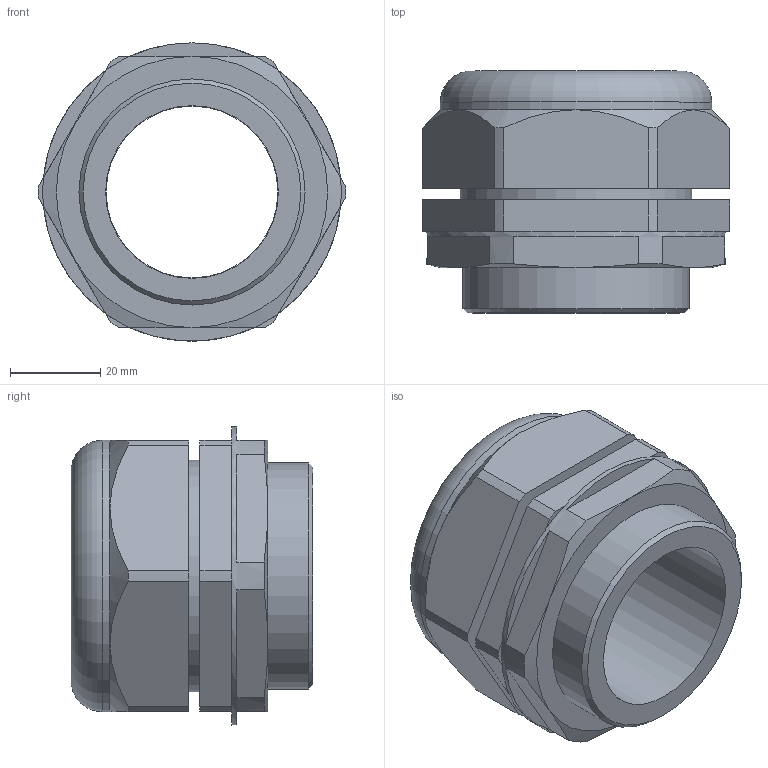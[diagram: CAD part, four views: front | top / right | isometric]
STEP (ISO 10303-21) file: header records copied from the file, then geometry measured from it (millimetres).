
FILE_DESCRIPTION(/* description */ (''),/* implementation_level */ '2;1');
FILE_NAME(/* name */ 'K:\ПРОЕКТЫ\2020\2020-06-09 - Модели GK xx M\OK - GK 50 M.stp',/* time_stamp */ '2020-06-10T09:43:19+03:00',/* author */ ('torgashev_an'),/* organization */ (''),/* preprocessor_version */ 'ST-DEVELOPER v18',/* originating_system */ 'Autodesk Inventor 2020',/* authorisation */ '');
FILE_SCHEMA (('AUTOMOTIVE_DESIGN { 1 0 10303 214 3 1 1 }'));
Length unit declared in the file: millimetre
Products named in the file (1): Деталь2
Bounding box: 68 x 53.5 x 66 mm (x, y, z)
Volume: 87135.8 mm3; surface area: 27777.2 mm2
Topology: 2 solids, 2 shells, 70 faces, 183 edges, 122 vertices
Faces by surface type: plane 33, cylinder 20, cone 16, torus 1
Full cylindrical faces by diameter (mm): 38 x1, 38.2 x2, 48.376 x1, 50 x1, 51.2 x1, 60 x1, 66 x1
Entity records: 2282 total; most frequent: CARTESIAN_POINT 424, DIRECTION 388, ORIENTED_EDGE 366, EDGE_CURVE 183, AXIS2_PLACEMENT_3D 158, VERTEX_POINT 122, CIRCLE 87, EDGE_LOOP 79
